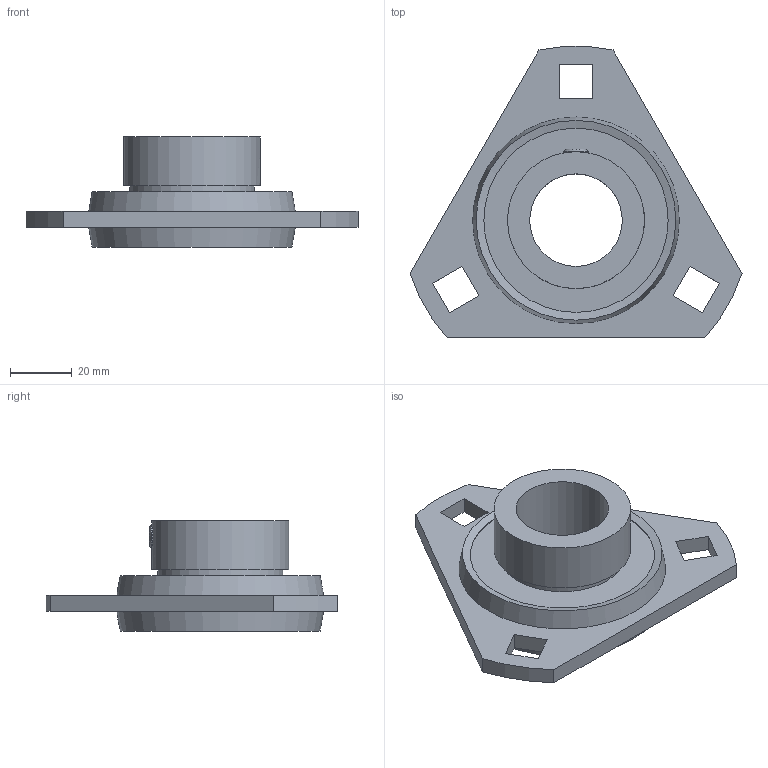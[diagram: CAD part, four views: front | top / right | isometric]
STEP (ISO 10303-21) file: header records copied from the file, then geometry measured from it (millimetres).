
FILE_DESCRIPTION((''),'2;1');
FILE_NAME('\\Ts-tgl068\j-cad-d-base\00.3DCADデータ作成フォルダ\02.フランジ形\KHPFT\KHPFT206A.stp','2014-04-24T10:28:59',('btec_1106_2'),(''),'Autodesk Inventor 2012','Autodesk Inventor 2012','');
FILE_SCHEMA(('AUTOMOTIVE_DESIGN { 1 0 10303 214 1 1 1 1 }'));
Length unit declared in the file: millimetre
Products named in the file (3): KHPFT200A; PFT6; KH206GA
Assembly tree (2 placements, depth 2):
  KHPFT200A
    PFT6
    KH206GA
Bounding box: 107.63 x 94.36 x 35.7 mm (x, y, z)
Volume: 75504.9 mm3; surface area: 29227.2 mm2
Topology: 2 solids, 2 shells, 48 faces, 120 edges, 80 vertices
Faces by surface type: plane 30, cylinder 9, sphere 4, cone 4, torus 1
Full cylindrical faces by diameter (mm): 5 x1, 8 x1, 30 x1, 37 x1, 40.5 x1, 44.4 x1
Entity records: 1433 total; most frequent: CARTESIAN_POINT 287, DIRECTION 224, ORIENTED_EDGE 190, EDGE_CURVE 95, AXIS2_PLACEMENT_3D 79, EDGE_LOOP 78, VERTEX_POINT 71, VECTOR 66
